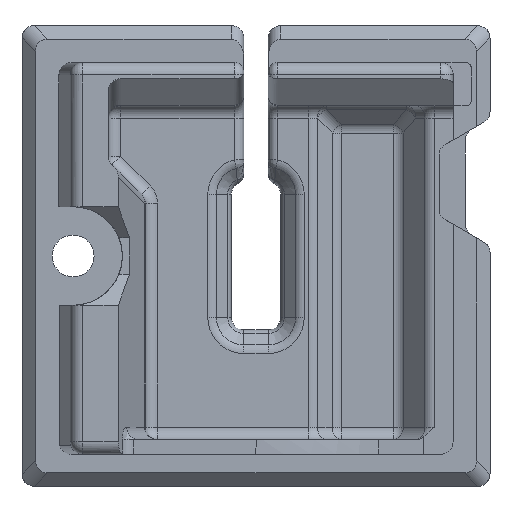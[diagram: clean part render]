
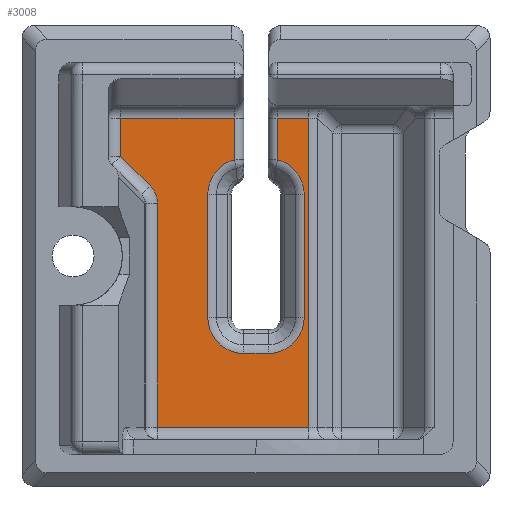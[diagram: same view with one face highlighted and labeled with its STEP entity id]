
A CAD part, front view. The second image highlights one B-rep face of the part: STEP entity #3008.
In plain terms, the highlighted planar face has unit normal (0, -1, 0) as drawn and (0, 0, 1) by its records, which use the part's own axes.
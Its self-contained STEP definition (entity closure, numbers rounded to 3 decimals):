
#96 = CARTESIAN_POINT ( 'NONE',  ( 11., -8.114, 3. ) ) ;
#136 = DIRECTION ( 'NONE',  ( 0., -1., 0. ) ) ;
#182 = ORIENTED_EDGE ( 'NONE', *, *, #11087, .T. ) ;
#240 = VERTEX_POINT ( 'NONE', #7745 ) ;
#253 = DIRECTION ( 'NONE',  ( 0., -1., 0. ) ) ;
#322 = VECTOR ( 'NONE', #3771, 1000. ) ;
#348 = CARTESIAN_POINT ( 'NONE',  ( 8., 0., 3. ) ) ;
#541 = LINE ( 'NONE', #1418, #4808 ) ;
#869 = EDGE_CURVE ( 'NONE', #6349, #1855, #11229, .T. ) ;
#978 = VECTOR ( 'NONE', #5801, 1000. ) ;
#1208 = VECTOR ( 'NONE', #9391, 1000. ) ;
#1418 = CARTESIAN_POINT ( 'NONE',  ( 0., -11.2, 3. ) ) ;
#1448 = DIRECTION ( 'NONE',  ( 1., 0., 0. ) ) ;
#1560 = ORIENTED_EDGE ( 'NONE', *, *, #4682, .T. ) ;
#1562 = ORIENTED_EDGE ( 'NONE', *, *, #9492, .T. ) ;
#1741 = CIRCLE ( 'NONE', #11509, 2.914 ) ;
#1844 = VECTOR ( 'NONE', #8584, 1000. ) ;
#1855 = VERTEX_POINT ( 'NONE', #4899 ) ;
#1924 = EDGE_CURVE ( 'NONE', #2969, #6076, #7810, .T. ) ;
#2042 = DIRECTION ( 'NONE',  ( 0., 0., -1. ) ) ;
#2082 = VERTEX_POINT ( 'NONE', #5469 ) ;
#2170 = CARTESIAN_POINT ( 'NONE',  ( -3.914, 5., 3. ) ) ;
#2221 = VECTOR ( 'NONE', #11353, 1000. ) ;
#2290 = LINE ( 'NONE', #5113, #5556 ) ;
#2297 = VECTOR ( 'NONE', #136, 1000. ) ;
#2531 = DIRECTION ( 'NONE',  ( 0., -1., 0. ) ) ;
#2585 = FACE_OUTER_BOUND ( 'NONE', #5880, .T. ) ;
#2750 = VECTOR ( 'NONE', #4250, 1000. ) ;
#2843 = CARTESIAN_POINT ( 'NONE',  ( 1., -5., 3. ) ) ;
#2969 = VERTEX_POINT ( 'NONE', #11239 ) ;
#2990 = ORIENTED_EDGE ( 'NONE', *, *, #10154, .T. ) ;
#3008 = ADVANCED_FACE ( 'NONE', ( #2585 ), #10654, .F. ) ;
#3017 = CARTESIAN_POINT ( 'NONE',  ( 1., 7.914, 3. ) ) ;
#3069 = ORIENTED_EDGE ( 'NONE', *, *, #10770, .T. ) ;
#3094 = LINE ( 'NONE', #348, #1844 ) ;
#3250 = DIRECTION ( 'NONE',  ( 0., 0., -1. ) ) ;
#3251 = ORIENTED_EDGE ( 'NONE', *, *, #3510, .T. ) ;
#3347 = VERTEX_POINT ( 'NONE', #8089 ) ;
#3376 = CARTESIAN_POINT ( 'NONE',  ( 0., 13.9, 3. ) ) ;
#3510 = EDGE_CURVE ( 'NONE', #4674, #5379, #5964, .T. ) ;
#3519 = EDGE_CURVE ( 'NONE', #7999, #240, #4911, .T. ) ;
#3684 = VECTOR ( 'NONE', #6608, 1000. ) ;
#3771 = DIRECTION ( 'NONE',  ( 0., -1., 0. ) ) ;
#3782 = AXIS2_PLACEMENT_3D ( 'NONE', #9969, #10150, #253 ) ;
#3842 = CARTESIAN_POINT ( 'NONE',  ( 1.75, -7.816, 3. ) ) ;
#3895 = AXIS2_PLACEMENT_3D ( 'NONE', #9481, #10421, #8596 ) ;
#4095 = CARTESIAN_POINT ( 'NONE',  ( 0., -11.2, 3. ) ) ;
#4114 = CARTESIAN_POINT ( 'NONE',  ( 11., -11.2, 3. ) ) ;
#4176 = CIRCLE ( 'NONE', #3782, 2.914 ) ;
#4202 = VERTEX_POINT ( 'NONE', #9329 ) ;
#4250 = DIRECTION ( 'NONE',  ( 0., 1., 0. ) ) ;
#4501 = ORIENTED_EDGE ( 'NONE', *, *, #9399, .T. ) ;
#4535 = CARTESIAN_POINT ( 'NONE',  ( 10., -4.286, 3. ) ) ;
#4648 = EDGE_CURVE ( 'NONE', #2082, #4674, #4176, .T. ) ;
#4674 = VERTEX_POINT ( 'NONE', #9078 ) ;
#4682 = EDGE_CURVE ( 'NONE', #3347, #8071, #5538, .T. ) ;
#4806 = ORIENTED_EDGE ( 'NONE', *, *, #8110, .T. ) ;
#4808 = VECTOR ( 'NONE', #7706, 1000. ) ;
#4861 = VERTEX_POINT ( 'NONE', #5950 ) ;
#4899 = CARTESIAN_POINT ( 'NONE',  ( 1.75, -11.2, 3. ) ) ;
#4911 = LINE ( 'NONE', #4095, #6851 ) ;
#4919 = VERTEX_POINT ( 'NONE', #8906 ) ;
#5113 = CARTESIAN_POINT ( 'NONE',  ( 11., 0., 3. ) ) ;
#5150 = ORIENTED_EDGE ( 'NONE', *, *, #9710, .T. ) ;
#5156 = ORIENTED_EDGE ( 'NONE', *, *, #7040, .T. ) ;
#5234 = DIRECTION ( 'NONE',  ( 0., 1., 0. ) ) ;
#5238 = DIRECTION ( 'NONE',  ( 0., 0., -1. ) ) ;
#5309 = DIRECTION ( 'NONE',  ( 0., 0., 1. ) ) ;
#5317 = CARTESIAN_POINT ( 'NONE',  ( -4.286, 0., 3. ) ) ;
#5379 = VERTEX_POINT ( 'NONE', #2170 ) ;
#5469 = CARTESIAN_POINT ( 'NONE',  ( -1.75, -7.816, 3. ) ) ;
#5538 = LINE ( 'NONE', #6537, #2297 ) ;
#5539 = AXIS2_PLACEMENT_3D ( 'NONE', #4535, #5309, #8068 ) ;
#5556 = VECTOR ( 'NONE', #5234, 1000. ) ;
#5568 = CARTESIAN_POINT ( 'NONE',  ( -4.286, -11.2, 3. ) ) ;
#5631 = EDGE_CURVE ( 'NONE', #11378, #3347, #1741, .T. ) ;
#5644 = ORIENTED_EDGE ( 'NONE', *, *, #869, .T. ) ;
#5672 = DIRECTION ( 'NONE',  ( 0., -1., 0. ) ) ;
#5801 = DIRECTION ( 'NONE',  ( 0., -1., 0. ) ) ;
#5880 = EDGE_LOOP ( 'NONE', ( #10842, #5150, #6071, #3251, #2990, #10895, #11555, #1560, #6435, #5644, #3069, #182, #5156, #11306, #4806, #4501, #1562 ) ) ;
#5909 = AXIS2_PLACEMENT_3D ( 'NONE', #8991, #5238, #2531 ) ;
#5950 = CARTESIAN_POINT ( 'NONE',  ( 8., 13.9, 3. ) ) ;
#5964 = LINE ( 'NONE', #9575, #1208 ) ;
#6071 = ORIENTED_EDGE ( 'NONE', *, *, #4648, .T. ) ;
#6076 = VERTEX_POINT ( 'NONE', #6336 ) ;
#6126 = AXIS2_PLACEMENT_3D ( 'NONE', #2843, #2042, #5672 ) ;
#6336 = CARTESIAN_POINT ( 'NONE',  ( 8.586, -5.7, 3. ) ) ;
#6349 = VERTEX_POINT ( 'NONE', #3842 ) ;
#6435 = ORIENTED_EDGE ( 'NONE', *, *, #11303, .T. ) ;
#6537 = CARTESIAN_POINT ( 'NONE',  ( 3.914, -5., 3. ) ) ;
#6608 = DIRECTION ( 'NONE',  ( 1., 0., 0. ) ) ;
#6688 = CIRCLE ( 'NONE', #6126, 2.914 ) ;
#6840 = DIRECTION ( 'NONE',  ( -1., 0., 0. ) ) ;
#6851 = VECTOR ( 'NONE', #1448, 1000. ) ;
#6879 = VECTOR ( 'NONE', #6840, 1000. ) ;
#7040 = EDGE_CURVE ( 'NONE', #11261, #6076, #11240, .T. ) ;
#7554 = LINE ( 'NONE', #3017, #3684 ) ;
#7706 = DIRECTION ( 'NONE',  ( 1., 0., 0. ) ) ;
#7745 = CARTESIAN_POINT ( 'NONE',  ( -1.75, -11.2, 3. ) ) ;
#7810 = CIRCLE ( 'NONE', #5539, 2. ) ;
#7999 = VERTEX_POINT ( 'NONE', #5568 ) ;
#8068 = DIRECTION ( 'NONE',  ( 0., -1., 0. ) ) ;
#8071 = VERTEX_POINT ( 'NONE', #9049 ) ;
#8089 = CARTESIAN_POINT ( 'NONE',  ( 3.914, 5., 3. ) ) ;
#8110 = EDGE_CURVE ( 'NONE', #2969, #4861, #3094, .T. ) ;
#8247 = LINE ( 'NONE', #5317, #322 ) ;
#8447 = CARTESIAN_POINT ( 'NONE',  ( 1., 7.914, 3. ) ) ;
#8462 = EDGE_CURVE ( 'NONE', #4202, #11378, #7554, .T. ) ;
#8584 = DIRECTION ( 'NONE',  ( 0., 1., 0. ) ) ;
#8596 = DIRECTION ( 'NONE',  ( 0., -1., 0. ) ) ;
#8906 = CARTESIAN_POINT ( 'NONE',  ( -4.286, 13.9, 3. ) ) ;
#8991 = CARTESIAN_POINT ( 'NONE',  ( 0., 0., 3. ) ) ;
#9049 = CARTESIAN_POINT ( 'NONE',  ( 3.914, -5., 3. ) ) ;
#9078 = CARTESIAN_POINT ( 'NONE',  ( -3.914, -5., 3. ) ) ;
#9329 = CARTESIAN_POINT ( 'NONE',  ( -1., 7.914, 3. ) ) ;
#9344 = CARTESIAN_POINT ( 'NONE',  ( 1.75, 0., 3. ) ) ;
#9391 = DIRECTION ( 'NONE',  ( 0., 1., 0. ) ) ;
#9399 = EDGE_CURVE ( 'NONE', #4861, #4919, #11442, .T. ) ;
#9435 = LINE ( 'NONE', #11430, #2750 ) ;
#9481 = CARTESIAN_POINT ( 'NONE',  ( -1., 5., 3. ) ) ;
#9492 = EDGE_CURVE ( 'NONE', #4919, #7999, #8247, .T. ) ;
#9575 = CARTESIAN_POINT ( 'NONE',  ( -3.914, 5., 3. ) ) ;
#9710 = EDGE_CURVE ( 'NONE', #240, #2082, #9435, .T. ) ;
#9969 = CARTESIAN_POINT ( 'NONE',  ( -1., -5., 3. ) ) ;
#10073 = CIRCLE ( 'NONE', #3895, 2.914 ) ;
#10150 = DIRECTION ( 'NONE',  ( 0., 0., -1. ) ) ;
#10154 = EDGE_CURVE ( 'NONE', #5379, #4202, #10073, .T. ) ;
#10348 = VERTEX_POINT ( 'NONE', #4114 ) ;
#10390 = DIRECTION ( 'NONE',  ( 0., -1., 0. ) ) ;
#10421 = DIRECTION ( 'NONE',  ( 0., 0., -1. ) ) ;
#10654 = PLANE ( 'NONE',  #5909 ) ;
#10770 = EDGE_CURVE ( 'NONE', #1855, #10348, #541, .T. ) ;
#10842 = ORIENTED_EDGE ( 'NONE', *, *, #3519, .T. ) ;
#10895 = ORIENTED_EDGE ( 'NONE', *, *, #8462, .T. ) ;
#11087 = EDGE_CURVE ( 'NONE', #10348, #11261, #2290, .T. ) ;
#11119 = CARTESIAN_POINT ( 'NONE',  ( 1.443, 1.443, 3. ) ) ;
#11229 = LINE ( 'NONE', #9344, #978 ) ;
#11239 = CARTESIAN_POINT ( 'NONE',  ( 8., -4.286, 3. ) ) ;
#11240 = LINE ( 'NONE', #11119, #2221 ) ;
#11261 = VERTEX_POINT ( 'NONE', #96 ) ;
#11303 = EDGE_CURVE ( 'NONE', #8071, #6349, #6688, .T. ) ;
#11306 = ORIENTED_EDGE ( 'NONE', *, *, #1924, .F. ) ;
#11319 = CARTESIAN_POINT ( 'NONE',  ( 1., 5., 3. ) ) ;
#11353 = DIRECTION ( 'NONE',  ( -0.707, 0.707, 0. ) ) ;
#11378 = VERTEX_POINT ( 'NONE', #8447 ) ;
#11430 = CARTESIAN_POINT ( 'NONE',  ( -1.75, 0., 3. ) ) ;
#11442 = LINE ( 'NONE', #3376, #6879 ) ;
#11509 = AXIS2_PLACEMENT_3D ( 'NONE', #11319, #3250, #10390 ) ;
#11555 = ORIENTED_EDGE ( 'NONE', *, *, #5631, .T. ) ;
